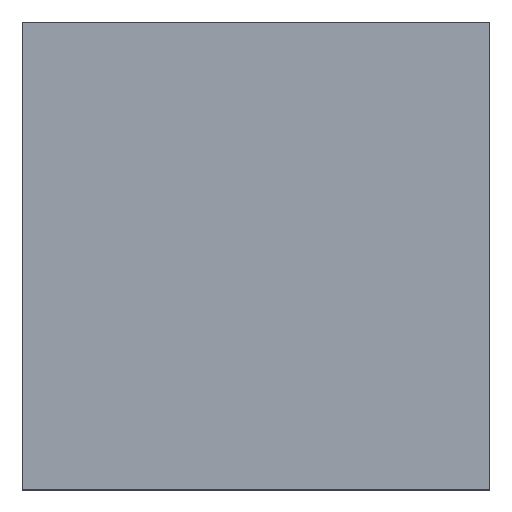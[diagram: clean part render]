
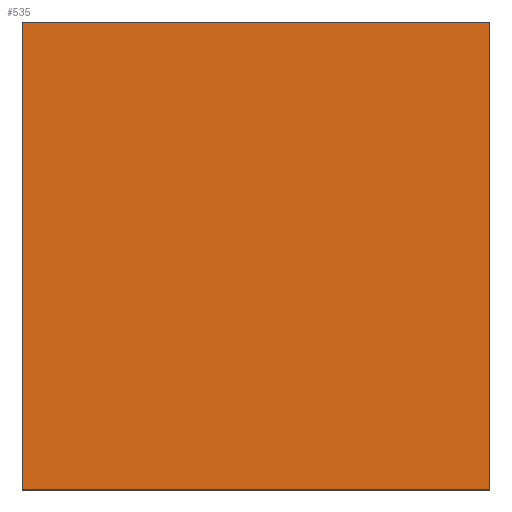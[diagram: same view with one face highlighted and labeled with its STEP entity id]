
A CAD part, top view. The second image highlights one B-rep face of the part: STEP entity #535.
In plain terms, the highlighted planar face has unit normal (0, 0, 1).
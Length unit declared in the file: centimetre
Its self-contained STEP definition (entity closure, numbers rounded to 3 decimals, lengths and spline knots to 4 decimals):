
#14 = EDGE_CURVE ( 'NONE', #420, #196, #111, .T. ) ;
#15 = ORIENTED_EDGE ( 'NONE', *, *, #89, .T. ) ;
#17 = ORIENTED_EDGE ( 'NONE', *, *, #465, .T. ) ;
#26 = LINE ( 'NONE', #195, #116 ) ;
#30 = CARTESIAN_POINT ( 'NONE',  ( 0., 0., 1000. ) ) ;
#50 = DIRECTION ( 'NONE',  ( -1., 0., 0. ) ) ;
#82 = CARTESIAN_POINT ( 'NONE',  ( 0., 0., 1000. ) ) ;
#87 = VECTOR ( 'NONE', #146, 100. ) ;
#89 = EDGE_CURVE ( 'NONE', #245, #420, #216, .T. ) ;
#94 = ORIENTED_EDGE ( 'NONE', *, *, #494, .T. ) ;
#107 = CARTESIAN_POINT ( 'NONE',  ( 0., 1000., 1000. ) ) ;
#111 = LINE ( 'NONE', #107, #534 ) ;
#113 = LINE ( 'NONE', #415, #87 ) ;
#116 = VECTOR ( 'NONE', #456, 100. ) ;
#146 = DIRECTION ( 'NONE',  ( 0., 1., 0. ) ) ;
#152 = FACE_OUTER_BOUND ( 'NONE', #555, .T. ) ;
#183 = AXIS2_PLACEMENT_3D ( 'NONE', #30, #318, #360 ) ;
#192 = VERTEX_POINT ( 'NONE', #521 ) ;
#195 = CARTESIAN_POINT ( 'NONE',  ( 0., 0., 1000. ) ) ;
#196 = VERTEX_POINT ( 'NONE', #82 ) ;
#216 = LINE ( 'NONE', #527, #240 ) ;
#240 = VECTOR ( 'NONE', #50, 100. ) ;
#245 = VERTEX_POINT ( 'NONE', #402 ) ;
#256 = ORIENTED_EDGE ( 'NONE', *, *, #14, .T. ) ;
#278 = DIRECTION ( 'NONE',  ( 0., -1., 0. ) ) ;
#318 = DIRECTION ( 'NONE',  ( 0., 0., 1. ) ) ;
#326 = PLANE ( 'NONE',  #183 ) ;
#360 = DIRECTION ( 'NONE',  ( 1., 0., 0. ) ) ;
#402 = CARTESIAN_POINT ( 'NONE',  ( 1000., 1000., 1000. ) ) ;
#415 = CARTESIAN_POINT ( 'NONE',  ( 1000., 1000., 1000. ) ) ;
#420 = VERTEX_POINT ( 'NONE', #549 ) ;
#456 = DIRECTION ( 'NONE',  ( 1., 0., 0. ) ) ;
#465 = EDGE_CURVE ( 'NONE', #192, #245, #113, .T. ) ;
#494 = EDGE_CURVE ( 'NONE', #196, #192, #26, .T. ) ;
#521 = CARTESIAN_POINT ( 'NONE',  ( 1000., 0., 1000. ) ) ;
#527 = CARTESIAN_POINT ( 'NONE',  ( 0., 1000., 1000. ) ) ;
#534 = VECTOR ( 'NONE', #278, 100. ) ;
#535 = ADVANCED_FACE ( 'NONE', ( #152 ), #326, .T. ) ;
#549 = CARTESIAN_POINT ( 'NONE',  ( 0., 1000., 1000. ) ) ;
#555 = EDGE_LOOP ( 'NONE', ( #256, #94, #17, #15 ) ) ;
